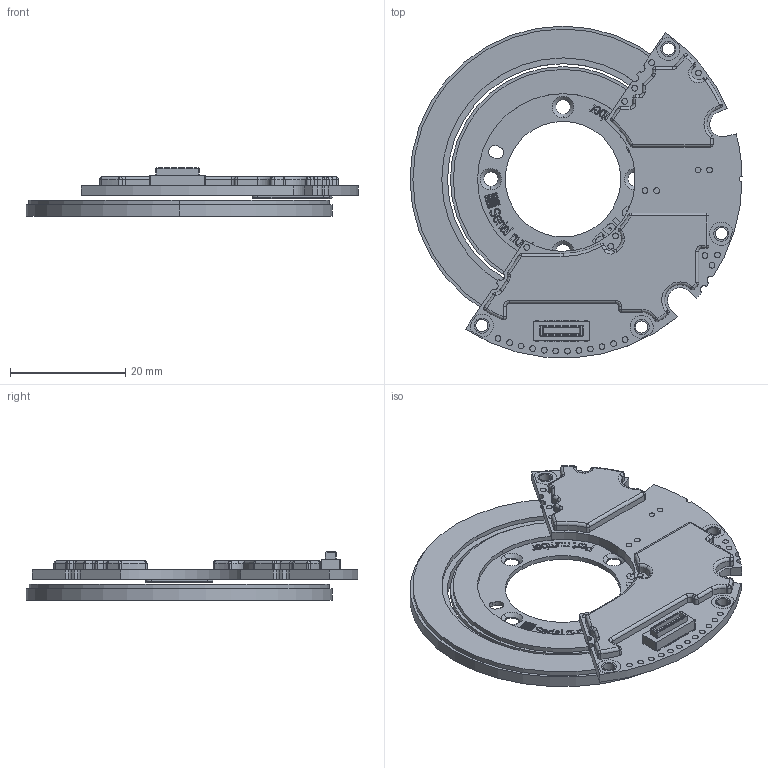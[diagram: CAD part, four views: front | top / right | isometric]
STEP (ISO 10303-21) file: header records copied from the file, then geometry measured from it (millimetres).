
FILE_DESCRIPTION (( 'STEP AP214' ), '1' );
FILE_NAME ('AksIM-4_Dual_encoder_B2B_MRA039MRA053.STEP', '2026-05-08T09:39:49', ( '' ), ( '' ), 'SwSTEP 2.0', 'SolidWorks 2024', '' );
FILE_SCHEMA (( 'AUTOMOTIVE_DESIGN' ));
Length unit declared in the file: millimetre
Products named in the file (1): AksIM-4_Dual_encoder_B2B_MRA039MRA053
Bounding box: 57.5 x 57.45 x 8.4 mm (x, y, z)
Volume: 6565.1 mm3; surface area: 7931.4 mm2
Topology: 3 solids, 3 shells, 3045 faces, 8316 edges, 5451 vertices
Faces by surface type: plane 2154, cylinder 437, bspline 380, sphere 35, torus 31, cone 8
Entity records: 125548 total; most frequent: CARTESIAN_POINT 36124, ORIENTED_EDGE 16582, DIRECTION 13819, EDGE_CURVE 8291, LINE 6553, VECTOR 6553, VERTEX_POINT 5448, AXIS2_PLACEMENT_3D 3633
